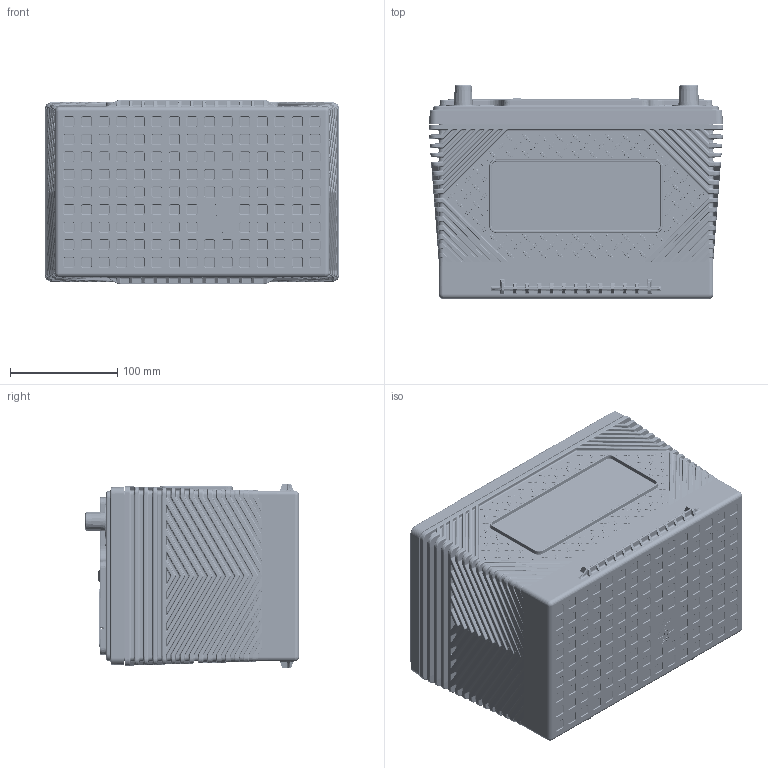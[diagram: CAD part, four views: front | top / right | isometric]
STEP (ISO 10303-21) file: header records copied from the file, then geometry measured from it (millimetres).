
FILE_DESCRIPTION (( 'STEP AP203' ), '1' );
FILE_NAME ('ODP-AGM34R.STEP', '2024-03-25T20:49:30', ( '' ), ( '' ), 'SwSTEP 2.0', 'SolidWorks 2022', '' );
FILE_SCHEMA (( 'CONFIG_CONTROL_DESIGN' ));
Products named in the file (1): ODP-AGM34R
Bounding box: 274.83 x 199.12 x 171.74 mm (x, y, z)
Volume: 1385822.7 mm3; surface area: 909328.4 mm2
Topology: 16 solids, 16 shells, 15123 faces, 35976 edges, 20805 vertices
Faces by surface type: cylinder 5612, plane 2965, torus 2706, bspline 2487, cone 923, sphere 430
Full cylindrical faces by diameter (mm): 18.059 x6, 18.542 x16, 21.336 x16, 25.4 x4
Entity records: 492399 total; most frequent: CARTESIAN_POINT 164802, ORIENTED_EDGE 70774, DIRECTION 68732, EDGE_CURVE 35387, AXIS2_PLACEMENT_3D 27488, VERTEX_POINT 20766, EDGE_LOOP 15627, FACE_OUTER_BOUND 15189
